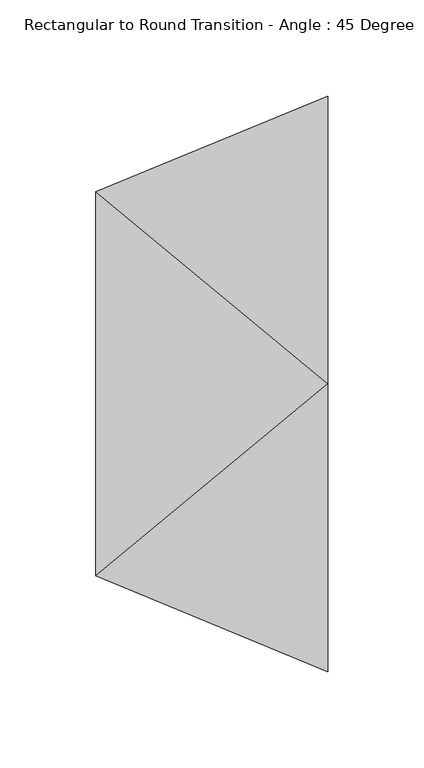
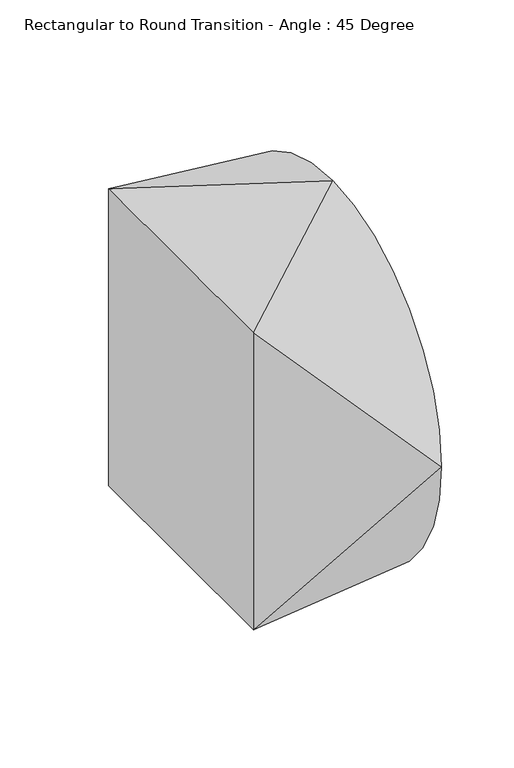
"""IFC4 building model written with IfcOpenShell, lengths in millimetres: duct fitting geometry, Rectangular to Round Transition - Angle : 45 Degree."""

from ifc_helpers import new_model, si_unit, frame, origin, place, context, project, spatial, circle_curve, source, transform, mapped, element, save
from ifc_brep_helpers import plane_surface, spline_surface, advanced_brep


def rectangular_to_round_transition_angle_45_degree_389d55c9(model_context):
    return source(origin(), model_context, "Body", "AdvancedBrep", [
        advanced_brep(
        [(120.7106781, 0.0, 150.0), (120.7106781, -150.0, 0.0), (120.7106781, 0.0, -150.0), (120.7106781, 150.0, 0.0), (0.0, -100.0, 125.0), (0.0, 100.0, 125.0), (0.0, 100.0, -125.0), (0.0, -100.0, -125.0)],
        [
            (0, 1, circle_curve(frame((120.7106781, 0.0, 0.0), z_axis=(1.0, 0.0, 0.0), x_axis=(0.0, 1.0, 0.0)), 150.0)),
            (1, 2, circle_curve(frame((120.7106781, 0.0, 0.0), z_axis=(1.0, 0.0, 0.0), x_axis=(0.0, 1.0, 0.0)), 150.0)),
            (2, 3, circle_curve(frame((120.7106781, 0.0, 0.0), z_axis=(1.0, 0.0, 0.0), x_axis=(0.0, 1.0, 0.0)), 150.0)),
            (3, 0, circle_curve(frame((120.7106781, 0.0, 0.0), z_axis=(1.0, 0.0, 0.0), x_axis=(0.0, 1.0, 0.0)), 150.0)),
            (4, 5),
            (5, 6),
            (6, 7),
            (7, 4),
            (0, 4),
            (4, 1),
            (7, 1),
            (7, 2),
            (6, 2),
            (6, 3),
            (5, 3),
            (5, 0),
        ],
        [
            plane_surface(frame((120.7106781, 0.0, 0.0), z_axis=(1.0, 0.0, 0.0), x_axis=(0.0, 0.0, -1.0))),
            plane_surface(frame((0.0, 0.0, 0.0), z_axis=(-1.0, 0.0, 0.0), x_axis=(0.0, 0.0, -1.0))),
            spline_surface(2, 1, [[(0.0, -100.0, 125.0), (120.7106781, 0.0, 150.0)], [(0.0, -100.0, 125.0), (120.7106781, -150.0, 150.0)], [(0.0, -100.0, 125.0), (120.7106781, -150.0, 0.0)]], [3, 3], [2, 2], [0.0, 1.0], [0.0, 1.0], weights=[[1.0, 1.0], [0.7071067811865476, 0.7071067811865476], [1.0, 1.0]]),
            plane_surface(frame((0.0, -100.0, 0.0), z_axis=(-0.38268343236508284, -0.9238795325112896, 0.0), x_axis=(0.0, 0.0, -1.0))),
            spline_surface(2, 1, [[(0.0, -100.0, -125.0), (120.7106781, -150.0, 0.0)], [(0.0, -100.0, -125.0), (120.7106781, -150.0, -150.0)], [(0.0, -100.0, -125.0), (120.7106781, 0.0, -150.0)]], [3, 3], [2, 2], [0.0, 1.0], [0.0, 1.0], weights=[[1.0, 1.0], [0.7071067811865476, 0.7071067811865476], [1.0, 1.0]]),
            plane_surface(frame((0.0, 0.0, -125.0), z_axis=(-0.2028030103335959, 0.0, -0.9792195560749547), x_axis=(0.0, 1.0, 0.0))),
            spline_surface(2, 1, [[(0.0, 100.0, -125.0), (120.7106781, 0.0, -150.0)], [(0.0, 100.0, -125.0), (120.7106781, 150.0, -150.0)], [(0.0, 100.0, -125.0), (120.7106781, 150.0, 0.0)]], [3, 3], [2, 2], [0.0, 1.0], [0.0, 1.0], weights=[[1.0, 1.0], [0.7071067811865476, 0.7071067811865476], [1.0, 1.0]]),
            plane_surface(frame((0.0, 100.0, 0.0), z_axis=(-0.3826834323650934, 0.9238795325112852, 0.0), x_axis=(0.0, 0.0, 1.0))),
            spline_surface(2, 1, [[(0.0, 100.0, 125.0), (120.7106781, 150.0, 0.0)], [(0.0, 100.0, 125.0), (120.7106781, 150.0, 150.0)], [(0.0, 100.0, 125.0), (120.7106781, 0.0, 150.0)]], [3, 3], [2, 2], [0.0, 1.0], [0.0, 1.0], weights=[[1.0, 1.0], [0.7071067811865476, 0.7071067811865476], [1.0, 1.0]]),
            plane_surface(frame((0.0, 0.0, 125.0), z_axis=(-0.20280301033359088, 0.0, 0.9792195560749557), x_axis=(0.0, -1.0, 0.0))),
        ],
        [
            (0, [[1, 2, 3, 4]]),
            (1, [[5, 6, 7, 8]]),
            (2, [[-1, 9, 10]]),
            (3, [[-8, 11, -10]]),
            (4, [[-2, -11, 12]]),
            (5, [[-7, 13, -12]]),
            (6, [[-3, -13, 14]]),
            (7, [[-6, 15, -14]]),
            (8, [[-4, -15, 16]]),
            (9, [[-5, -9, -16]]),
        ],
    ),
    ])


if __name__ == "__main__":
    model = new_model("IFC4")
    model_context = context("Model", 3, world=origin())
    ifc_project = project(units=[si_unit("LENGTHUNIT", "METRE", prefix="MILLI")], contexts=[model_context])
    site = spatial("IfcSite", under=ifc_project)
    building = spatial("IfcBuilding", under=site)
    placement = place(None, origin())
    rectangular_to_round_transition_angle_45_degree_shape = rectangular_to_round_transition_angle_45_degree_389d55c9(model_context)
    element("IfcDuctFitting", 1, ObjectType="Rectangular to Round Transition - Angle : 45 Degree", at=placement, inside=building, context=model_context, shape_type="MappedRepresentation", body=[
        mapped(rectangular_to_round_transition_angle_45_degree_shape, transform((0.0, 0.0, 0.0), x_axis=(1.0, 0.0, 0.0), y_axis=(0.0, 1.0, 0.0), z_axis=(0.0, 0.0, 1.0))),
    ])
    save(model, "model.ifc")
